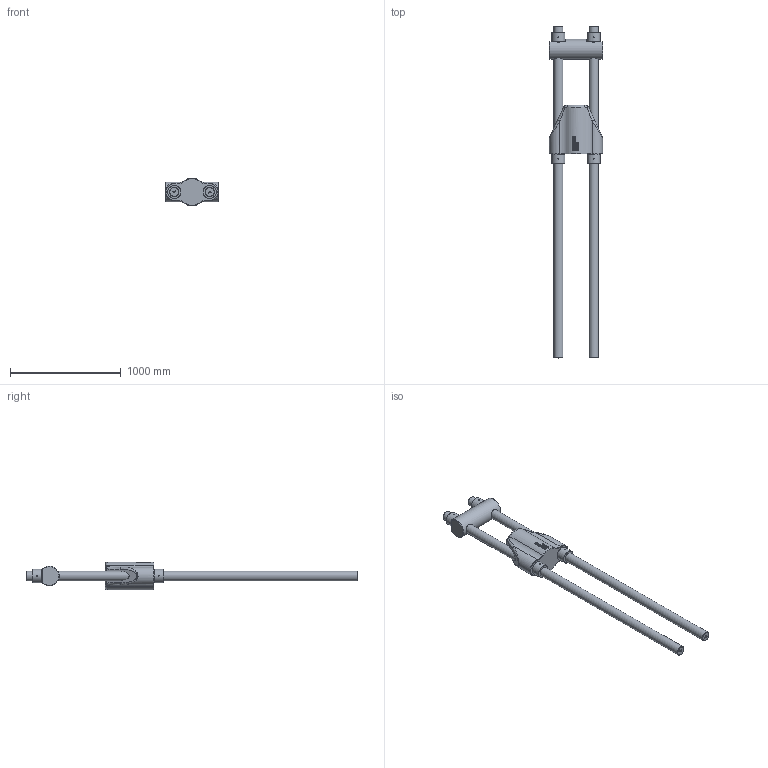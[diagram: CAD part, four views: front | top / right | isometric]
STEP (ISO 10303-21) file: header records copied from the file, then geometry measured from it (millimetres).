
FILE_DESCRIPTION(/* description */ (''),/* implementation_level */ '2;1');
FILE_NAME(/* name */ 'D:\Clienti\Redaelli (inventor)\BRC\STEP\Arrangemet\BRC080 72 111 0.stp',/* time_stamp */ '2021-05-08T08:34:40+02:00',/* author */ ('fabri'),/* organization */ (''),/* preprocessor_version */ 'ST-DEVELOPER v16.13',/* originating_system */ 'Autodesk Inventor 2018',/* authorisation */ '');
FILE_SCHEMA (('AUTOMOTIVE_DESIGN { 1 0 10303 214 3 1 1 }'));
Length unit declared in the file: millimetre
Products named in the file (5): BRC020 72 111 0; BRC020 71 112 0; BRC020 71 114 0_ROD; BRC020 71 113 0; BRC020 71 114 0_NUT
Assembly tree (8 placements, depth 2):
  BRC020 72 111 0
    BRC020 71 112 0
    BRC020 71 114 0_ROD  x2
    BRC020 71 113 0
    BRC020 71 114 0_NUT  x4
Bounding box: 480 x 3000 x 250 mm (x, y, z)
Volume: 73315246.2 mm3; surface area: 2989512.7 mm2
Topology: 8 solids, 8 shells, 1526 faces, 4058 edges, 2694 vertices
Faces by surface type: bspline 751, plane 651, cylinder 70, cone 30, torus 20, sphere 4
Full cylindrical faces by diameter (mm): 7 x16, 80.67 x4, 85 x2, 89 x4, 120 x4, 179 x1
Entity records: 30676 total; most frequent: CARTESIAN_POINT 12484, ORIENTED_EDGE 4370, DIRECTION 2447, EDGE_CURVE 2185, VERTEX_POINT 1456, LINE 1145, VECTOR 1145, EDGE_LOOP 949
